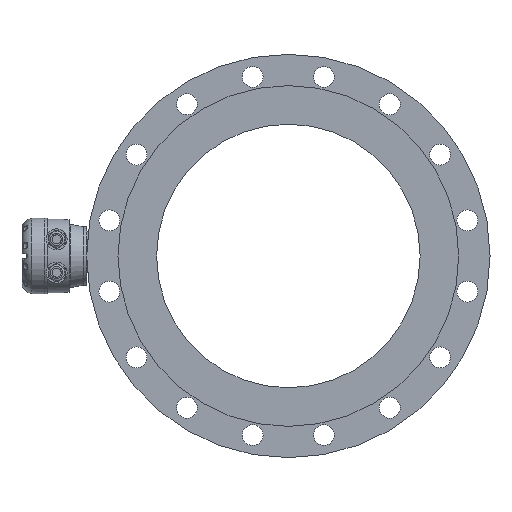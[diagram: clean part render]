
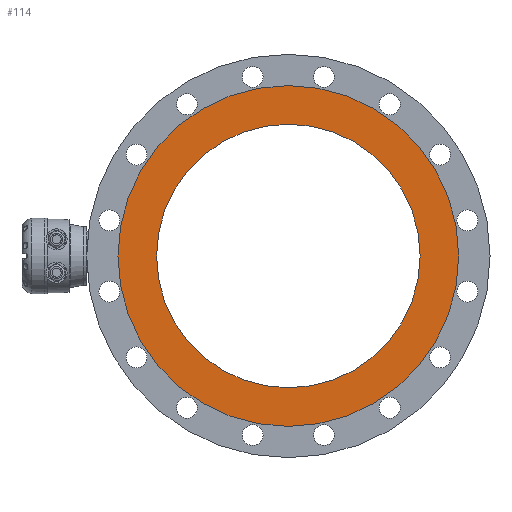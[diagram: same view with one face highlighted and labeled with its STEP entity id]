
A CAD part, left-side view. The second image highlights one B-rep face of the part: STEP entity #114.
In plain terms, the highlighted planar face has unit normal (-1, 0, 0).
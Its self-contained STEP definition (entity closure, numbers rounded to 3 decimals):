
#114 = ADVANCED_FACE ( 'NONE', ( #9777, #9776 ), #8066, .T. ) ;
#774 = EDGE_CURVE ( 'NONE', #4602, #4602, #12074, .T. ) ;
#780 = DIRECTION ( 'NONE',  ( 0., 0., 1. ) ) ;
#781 = DIRECTION ( 'NONE',  ( -1., 0., 0. ) ) ;
#782 = CARTESIAN_POINT ( 'NONE',  ( -294.805, -94.017, -10.543 ) ) ;
#806 = EDGE_CURVE ( 'NONE', #4644, #4644, #12098, .T. ) ;
#4602 = VERTEX_POINT ( 'NONE', #4603 ) ;
#4603 = CARTESIAN_POINT ( 'NONE',  ( -294.805, -283.517, -200.043 ) ) ;
#4644 = VERTEX_POINT ( 'NONE', #4645 ) ;
#4645 = CARTESIAN_POINT ( 'NONE',  ( -294.805, -283.517, 234.457 ) ) ;
#6809 = ORIENTED_EDGE ( 'NONE', *, *, #774, .T. ) ;
#6810 = ORIENTED_EDGE ( 'NONE', *, *, #806, .T. ) ;
#7013 = EDGE_LOOP ( 'NONE', ( #6809 ) ) ;
#7169 = EDGE_LOOP ( 'NONE', ( #6810 ) ) ;
#7985 = AXIS2_PLACEMENT_3D ( 'NONE', #782, #781, #780 ) ;
#8066 = PLANE ( 'NONE',  #7985 ) ;
#8399 = AXIS2_PLACEMENT_3D ( 'NONE', #13148, #13155, #13156 ) ;
#8438 = AXIS2_PLACEMENT_3D ( 'NONE', #13264, #13271, #13272 ) ;
#9776 = FACE_OUTER_BOUND ( 'NONE', #7169, .T. ) ;
#9777 = FACE_BOUND ( 'NONE', #7013, .T. ) ;
#12074 = CIRCLE ( 'NONE', #8399, 189.5 ) ;
#12098 = CIRCLE ( 'NONE', #8438, 245. ) ;
#13148 = CARTESIAN_POINT ( 'NONE',  ( -294.805, -283.517, -10.543 ) ) ;
#13155 = DIRECTION ( 'NONE',  ( 1., 0., 0. ) ) ;
#13156 = DIRECTION ( 'NONE',  ( 0., 0., -1. ) ) ;
#13264 = CARTESIAN_POINT ( 'NONE',  ( -294.805, -283.517, -10.543 ) ) ;
#13271 = DIRECTION ( 'NONE',  ( -1., 0., 0. ) ) ;
#13272 = DIRECTION ( 'NONE',  ( 0., 0., 1. ) ) ;
